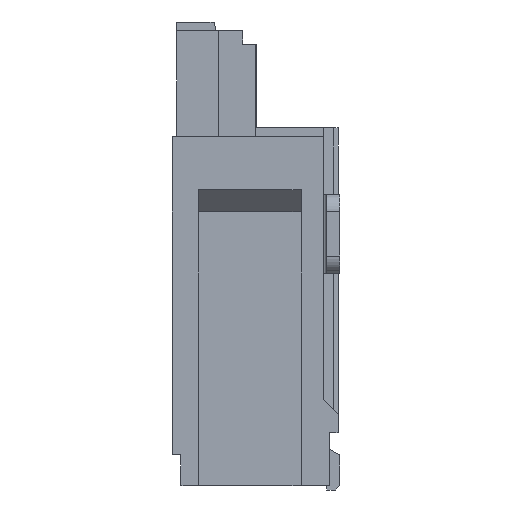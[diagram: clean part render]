
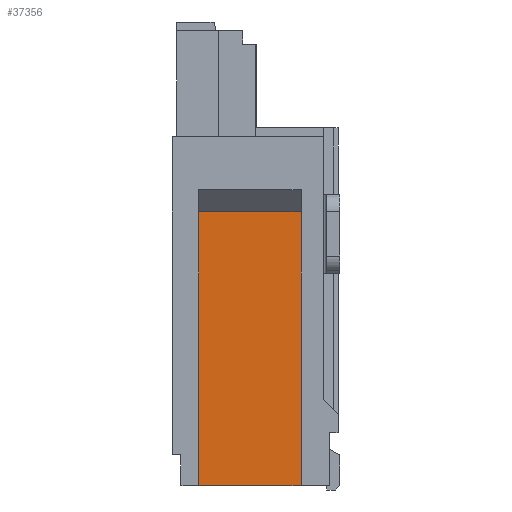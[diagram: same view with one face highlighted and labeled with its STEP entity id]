
A CAD part, left-side view. The second image highlights one B-rep face of the part: STEP entity #37356.
In plain terms, the highlighted planar face has unit normal (-1, 0, 0).
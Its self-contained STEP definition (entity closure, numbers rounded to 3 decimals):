
#13731=DIRECTION('',(0.,-1.,0.));
#13732=VECTOR('',#13731,1.16);
#13733=CARTESIAN_POINT('',(-6.85,1.58,-4.05));
#13734=LINE('',#13733,#13732);
#13755=DIRECTION('',(0.,1.,0.));
#13756=VECTOR('',#13755,1.16);
#13757=CARTESIAN_POINT('',(-6.85,0.42,-0.95));
#13758=LINE('',#13757,#13756);
#13759=DIRECTION('',(0.,0.,1.));
#13760=VECTOR('',#13759,3.1);
#13761=CARTESIAN_POINT('',(-6.85,1.58,-4.05));
#13762=LINE('',#13761,#13760);
#13771=DIRECTION('',(0.,0.,1.));
#13772=VECTOR('',#13771,3.1);
#13773=CARTESIAN_POINT('',(-6.85,0.42,-4.05));
#13774=LINE('',#13773,#13772);
#14044=CARTESIAN_POINT('',(-6.85,1.58,-4.05));
#14045=CARTESIAN_POINT('',(-6.85,0.42,-4.05));
#14046=VERTEX_POINT('',#14044);
#14047=VERTEX_POINT('',#14045);
#14114=CARTESIAN_POINT('',(-6.85,1.58,-0.95));
#14116=VERTEX_POINT('',#14114);
#14120=CARTESIAN_POINT('',(-6.85,0.42,-0.95));
#14121=VERTEX_POINT('',#14120);
#37342=CARTESIAN_POINT('',(-6.85,1.58,-4.05));
#37343=DIRECTION('',(1.,0.,0.));
#37344=DIRECTION('',(0.,-1.,0.));
#37345=AXIS2_PLACEMENT_3D('',#37342,#37343,#37344);
#37346=PLANE('',#37345);
#37348=ORIENTED_EDGE('',*,*,#37347,.F.);
#37350=ORIENTED_EDGE('',*,*,#37349,.F.);
#37351=ORIENTED_EDGE('',*,*,#37327,.F.);
#37353=ORIENTED_EDGE('',*,*,#37352,.T.);
#37354=EDGE_LOOP('',(#37348,#37350,#37351,#37353));
#37355=FACE_OUTER_BOUND('',#37354,.F.);
#37356=ADVANCED_FACE('',(#37355),#37346,.F.);
#37327=EDGE_CURVE('',#14046,#14047,#13734,.T.);
#37347=EDGE_CURVE('',#14121,#14116,#13758,.T.);
#37349=EDGE_CURVE('',#14047,#14121,#13774,.T.);
#37352=EDGE_CURVE('',#14046,#14116,#13762,.T.);
